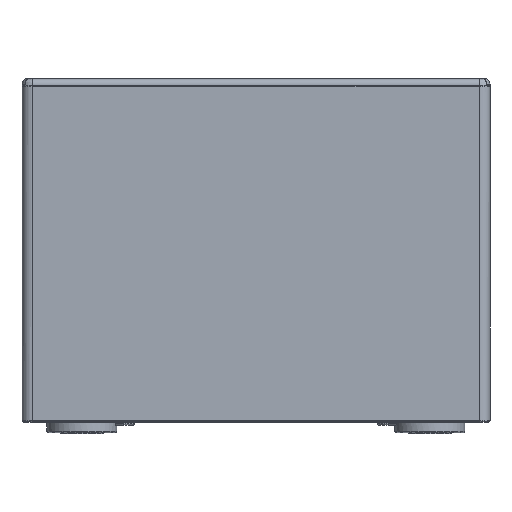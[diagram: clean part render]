
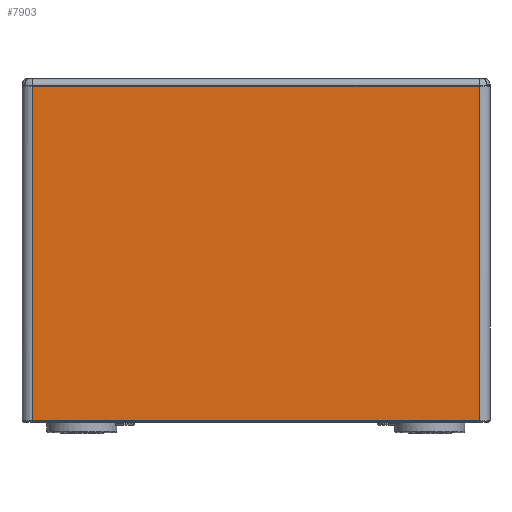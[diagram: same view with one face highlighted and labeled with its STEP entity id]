
A CAD part, front view. The second image highlights one B-rep face of the part: STEP entity #7903.
In plain terms, the highlighted planar face has unit normal (0, 1, 0).
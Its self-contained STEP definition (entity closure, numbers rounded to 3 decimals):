
#6182=DIRECTION('',(0.,0.,-1.));
#6183=VECTOR('',#6182,124.88);
#6184=CARTESIAN_POINT('',(-83.1,-23.85,124.98));
#6185=LINE('',#6184,#6183);
#6194=DIRECTION('',(1.,0.,0.));
#6195=VECTOR('',#6194,166.19);
#6196=CARTESIAN_POINT('',(-83.1,-23.85,0.1));
#6197=LINE('',#6196,#6195);
#6473=DIRECTION('',(-1.,0.,0.));
#6474=VECTOR('',#6473,166.19);
#6475=CARTESIAN_POINT('',(83.09,-23.85,124.98));
#6476=LINE('',#6475,#6474);
#6513=DIRECTION('',(0.,0.,1.));
#6514=VECTOR('',#6513,124.88);
#6515=CARTESIAN_POINT('',(83.09,-23.85,0.1));
#6516=LINE('',#6515,#6514);
#7249=CARTESIAN_POINT('',(-83.1,-23.85,0.1));
#7250=VERTEX_POINT('',#7249);
#7355=CARTESIAN_POINT('',(-83.1,-23.85,124.98));
#7356=VERTEX_POINT('',#7355);
#7357=CARTESIAN_POINT('',(83.09,-23.85,0.1));
#7358=VERTEX_POINT('',#7357);
#7359=CARTESIAN_POINT('',(83.09,-23.85,124.98));
#7360=VERTEX_POINT('',#7359);
#7889=CARTESIAN_POINT('',(-0.005,-23.85,62.54));
#7890=DIRECTION('',(0.,1.,0.));
#7891=DIRECTION('',(1.,0.,0.));
#7892=AXIS2_PLACEMENT_3D('',#7889,#7890,#7891);
#7893=PLANE('',#7892);
#7895=ORIENTED_EDGE('',*,*,#7894,.T.);
#7897=ORIENTED_EDGE('',*,*,#7896,.T.);
#7899=ORIENTED_EDGE('',*,*,#7898,.T.);
#7900=ORIENTED_EDGE('',*,*,#7877,.T.);
#7901=EDGE_LOOP('',(#7895,#7897,#7899,#7900));
#7902=FACE_OUTER_BOUND('',#7901,.F.);
#7903=ADVANCED_FACE('',(#7902),#7893,.T.);
#7877=EDGE_CURVE('',#7356,#7250,#6185,.T.);
#7894=EDGE_CURVE('',#7250,#7358,#6197,.T.);
#7896=EDGE_CURVE('',#7358,#7360,#6516,.T.);
#7898=EDGE_CURVE('',#7360,#7356,#6476,.T.);
